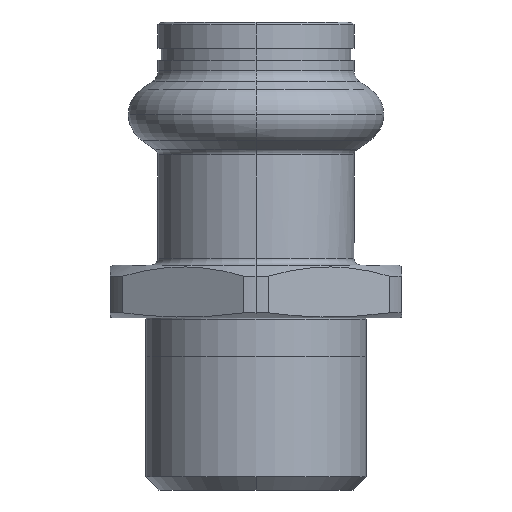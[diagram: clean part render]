
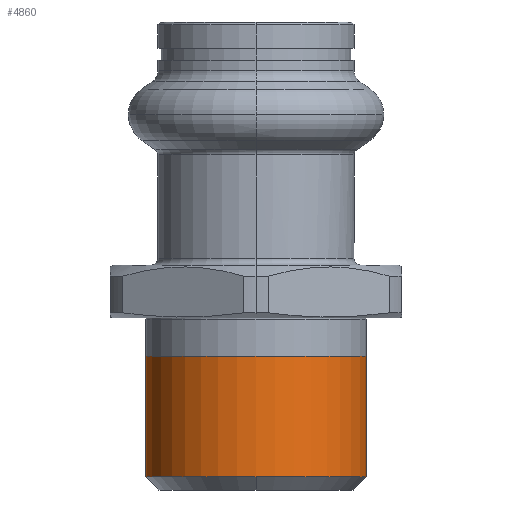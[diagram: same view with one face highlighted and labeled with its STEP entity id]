
A CAD part, left-side view. The second image highlights one B-rep face of the part: STEP entity #4860.
In plain terms, the highlighted cylindrical face has radius 8.331 mm (diameter 16.662 mm), a partial arc.
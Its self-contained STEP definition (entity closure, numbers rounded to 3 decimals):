
#3970=CARTESIAN_POINT('',(40.342,50.29,0.));
#3980=DIRECTION('',(0.,0.,-1.));
#3990=DIRECTION('',(0.,1.,0.));
#4000=AXIS2_PLACEMENT_3D('',#3970,#3980,#3990);
#4010=CYLINDRICAL_SURFACE('',#4000,8.331);
#4330=CARTESIAN_POINT('',(40.342,41.959,-2.9));
#4340=VERTEX_POINT('',#4330);
#4370=CARTESIAN_POINT('',(40.342,50.29,-2.9));
#4380=DIRECTION('',(0.,0.,-1.));
#4390=DIRECTION('',(0.,1.,0.));
#4400=AXIS2_PLACEMENT_3D('',#4370,#4380,#4390);
#4410=CIRCLE('',#4400,8.331);
#4420=CARTESIAN_POINT('',(40.342,58.621,-2.9));
#4430=VERTEX_POINT('',#4420);
#4440=EDGE_CURVE('',#4340,#4430,#4410,.T.);
#4560=CARTESIAN_POINT('',(40.342,41.959,0.));
#4570=DIRECTION('',(0.,0.,-1.));
#4580=VECTOR('',#4570,1.);
#4590=LINE('',#4560,#4580);
#4600=CARTESIAN_POINT('',(40.342,41.959,-12.));
#4610=VERTEX_POINT('',#4600);
#4620=EDGE_CURVE('',#4340,#4610,#4590,.T.);
#4630=ORIENTED_EDGE('',*,*,#4620,.F.);
#4640=CARTESIAN_POINT('',(40.342,50.29,-12.));
#4650=DIRECTION('',(0.,0.,-1.));
#4660=DIRECTION('',(-1.,0.,0.));
#4670=AXIS2_PLACEMENT_3D('',#4640,#4650,#4660);
#4680=CIRCLE('',#4670,8.331);
#4690=CARTESIAN_POINT('',(32.011,50.29,-12.));
#4700=VERTEX_POINT('',#4690);
#4710=EDGE_CURVE('',#4610,#4700,#4680,.T.);
#4720=ORIENTED_EDGE('',*,*,#4710,.F.);
#4730=CARTESIAN_POINT('',(40.342,58.621,-12.));
#4740=VERTEX_POINT('',#4730);
#4750=EDGE_CURVE('',#4700,#4740,#4680,.T.);
#4760=ORIENTED_EDGE('',*,*,#4750,.F.);
#4770=CARTESIAN_POINT('',(40.342,58.621,0.));
#4780=DIRECTION('',(0.,0.,-1.));
#4790=VECTOR('',#4780,1.);
#4800=LINE('',#4770,#4790);
#4810=EDGE_CURVE('',#4430,#4740,#4800,.T.);
#4820=ORIENTED_EDGE('',*,*,#4810,.T.);
#4830=ORIENTED_EDGE('',*,*,#4440,.T.);
#4840=EDGE_LOOP('',(#4830,#4820,#4760,#4720,#4630));
#4850=FACE_OUTER_BOUND('',#4840,.T.);
#4860=ADVANCED_FACE('0.655984-19_1219659',(#4850),#4010,.T.);
